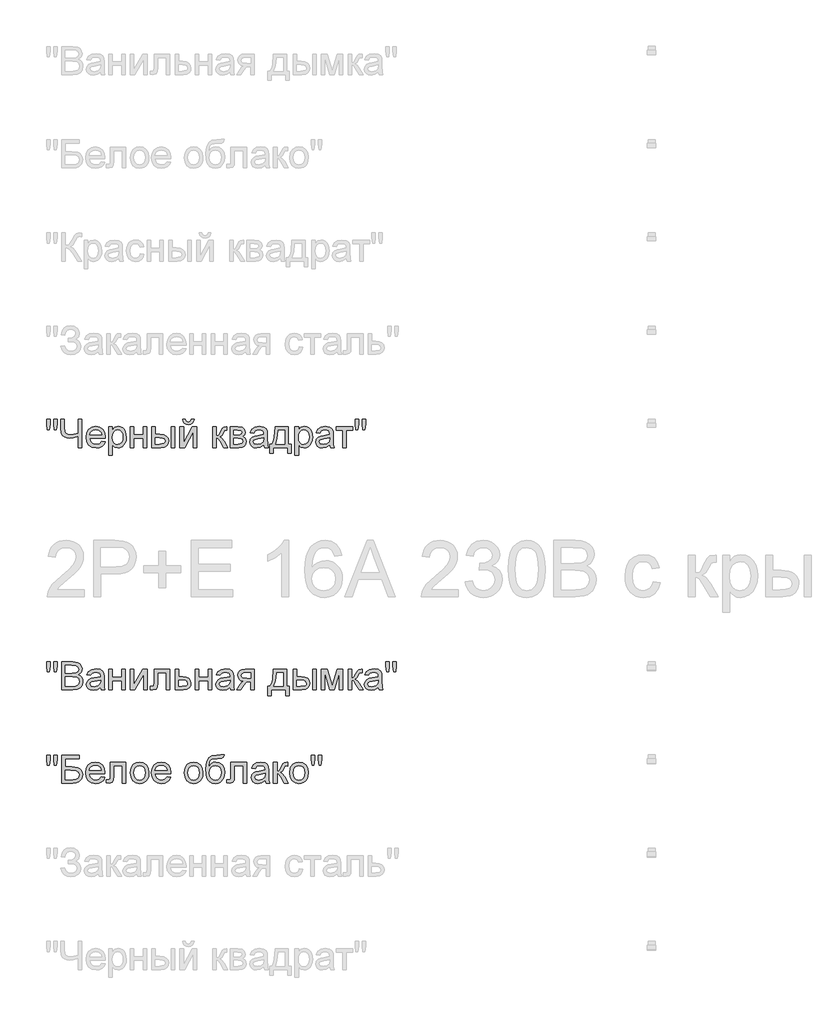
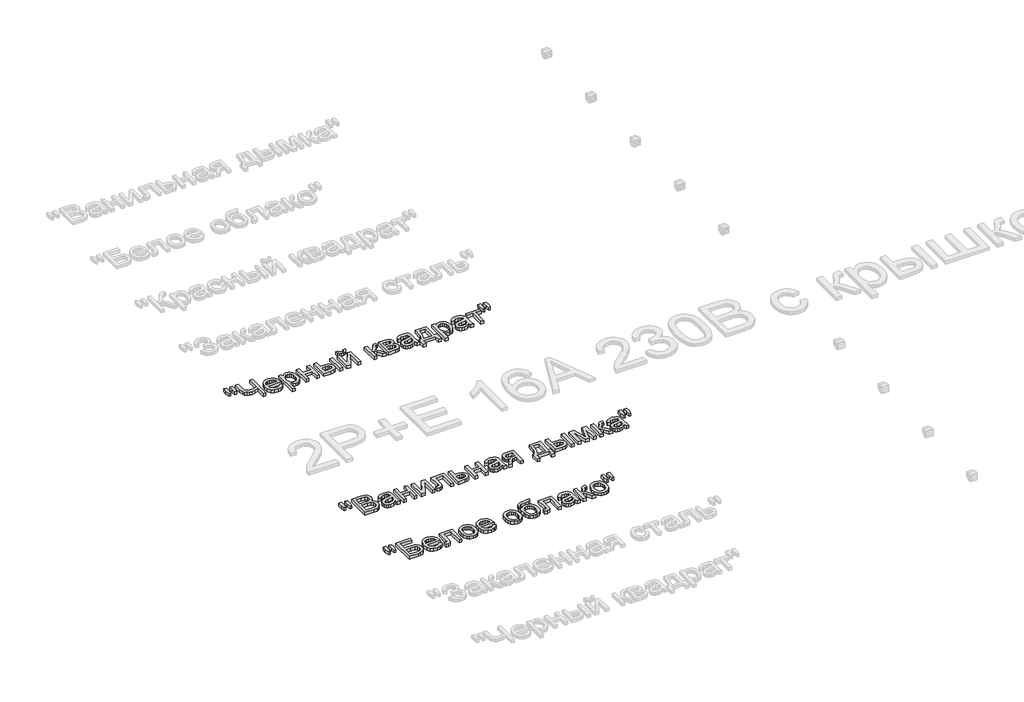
# One storey, part 47 of 168: 3 proxies.
"""IFC4 building model written with IfcOpenShell, lengths in millimetres."""

import ifcopenshell
import ifcopenshell.guid

model = None  # the IFC model being written
_history = None  # IfcOwnerHistory: only IFC2X3 demands one
_inside = {}  # id of a spatial element -> (the spatial element, [elements in it])
_under = {}  # id of a project, library or spatial element -> (it, [spatial elements below it])
_declared = {}  # id of a project -> (the project, [libraries it declares])
_typed = {}  # id of a type object -> (the type object, [elements of that type])
_made_of = {}  # id of a material, layer set ... -> (it, [elements and type objects made of it])


def new_model(schema):
    """Start an empty IFC model of exactly this schema.

    Asked for "IFC4X3", IfcOpenShell would pick the latest addendum, in which some entities
    have other attributes; the version numbers below select the first issue.
    IFC2X3 requires an IfcOwnerHistory on every rooted entity: one is made here for all.
    """
    global model, _history
    if schema == "IFC4X3":
        model = ifcopenshell.file(schema_version=(4, 3, 0, 0))
    else:
        model = ifcopenshell.file(schema=schema)
    _inside.clear()
    _under.clear()
    _declared.clear()
    _typed.clear()
    _made_of.clear()
    _history = None
    if model.schema == "IFC2X3":
        org = make("IfcOrganization", Name="unknown")
        user = make(
            "IfcPersonAndOrganization",
            ThePerson=make("IfcPerson", FamilyName="unknown"),
            TheOrganization=org,
        )
        app = make(
            "IfcApplication",
            ApplicationDeveloper=org,
            Version="unknown",
            ApplicationFullName="unknown",
            ApplicationIdentifier="unknown",
        )
        _history = make(
            "IfcOwnerHistory",
            OwningUser=user,
            OwningApplication=app,
            ChangeAction="ADDED",
            CreationDate=0,
        )
    return model


def make(cls, **values):
    """One entity of the class cls with the attributes given. An attribute that is None is left unset."""
    return model.create_entity(
        cls, **{name: value for name, value in values.items() if value is not None}
    )


def rooted(cls, **values):
    """An entity with a GlobalId (a new one), such as an element, a storey or a relation."""
    return make(cls, GlobalId=ifcopenshell.guid.new(), OwnerHistory=_history, **values)


def si_unit(unit_type, name, prefix=None):
    """IfcSIUnit, for example si_unit("LENGTHUNIT", "METRE", prefix="MILLI")."""
    return make("IfcSIUnit", UnitType=unit_type, Prefix=prefix, Name=name)


def assignment(units):
    """IfcUnitAssignment: the units of a project."""
    return None if units is None else make("IfcUnitAssignment", Units=units)


def point(xyz):
    """IfcCartesianPoint."""
    return None if xyz is None else make("IfcCartesianPoint", Coordinates=xyz)


def direction(xyz):
    """IfcDirection."""
    return None if xyz is None else make("IfcDirection", DirectionRatios=xyz)


def frame(location, z_axis=None, x_axis=None):
    """IfcAxis2Placement3D, a coordinate frame: its origin and axes. An axis left out is left unset."""
    return make(
        "IfcAxis2Placement3D",
        Location=point(location),
        Axis=direction(z_axis),
        RefDirection=direction(x_axis),
    )


def origin():
    """The frame at (0, 0, 0) with its axes left unset."""
    return frame((0.0, 0.0, 0.0))


def origin_with_axes():
    """The frame at (0, 0, 0) with the z axis (0, 0, 1) and the x axis (1, 0, 0) written out."""
    return frame((0.0, 0.0, 0.0), z_axis=(0.0, 0.0, 1.0), x_axis=(1.0, 0.0, 0.0))


def place(relative_to, where):
    """IfcLocalPlacement: puts the frame where relative to a parent placement (None: the world)."""
    return make(
        "IfcLocalPlacement", PlacementRelTo=relative_to, RelativePlacement=where
    )


def context(
    kind, dimensions, precision=None, world=None, true_north=None, identifier=None
):
    """IfcGeometricRepresentationContext, for example the 3D "Model" context."""
    return make(
        "IfcGeometricRepresentationContext",
        ContextIdentifier=identifier,
        ContextType=kind,
        CoordinateSpaceDimension=dimensions,
        Precision=precision,
        WorldCoordinateSystem=world,
        TrueNorth=true_north,
    )


def project(units=None, contexts=None):
    """IfcProject with its units and contexts."""
    return rooted(
        "IfcProject",
        Name="project",
        RepresentationContexts=contexts,
        UnitsInContext=assignment(units),
    )


def spatial(cls, under=None, at=None, **own):
    """A site, building, storey or space (cls), placed at a placement, below another one or the project."""
    s = rooted(cls, ObjectPlacement=at, **own)
    if under is not None:
        _under.setdefault(under.id(), (under, []))[1].append(s)
    return s


def polyline(points):
    """IfcPolyline through the points."""
    return make("IfcPolyline", Points=[point(p) for p in points])


def outline(outer, holes=None, kind="AREA"):
    """IfcArbitraryClosedProfileDef: a profile drawn as a closed curve; with holes, ...WithVoids."""
    if holes is None:
        return make("IfcArbitraryClosedProfileDef", ProfileType=kind, OuterCurve=outer)
    return make(
        "IfcArbitraryProfileDefWithVoids",
        ProfileType=kind,
        OuterCurve=outer,
        InnerCurves=holes,
    )


def extrude(swept, where, along, depth):
    """IfcExtrudedAreaSolid: the profile swept, set in the frame where, extruded along a direction by depth."""
    return make(
        "IfcExtrudedAreaSolid",
        SweptArea=swept,
        Position=where,
        ExtrudedDirection=direction(along),
        Depth=depth,
    )


def shape(context_of_items, identifier, shape_type, items):
    """IfcShapeRepresentation: the items that make up one representation, for example the "Body"."""
    return make(
        "IfcShapeRepresentation",
        ContextOfItems=context_of_items,
        RepresentationIdentifier=identifier,
        RepresentationType=shape_type,
        Items=items,
    )


def made_of(thing, what):
    """Note that an element or type object is made of a material, layer set ...; save() writes the relation."""
    if what is not None:
        _made_of.setdefault(what.id(), (what, []))[1].append(thing)
    return thing


def element(
    cls,
    number,
    at=None,
    inside=None,
    cuts=None,
    type_object=None,
    material=None,
    context=None,
    identifier="Body",
    shape_type=None,
    held_by="IfcProductDefinitionShape",
    body=None,
    shapes=None,
    **own,
):
    """One element of the class cls, such as IfcWall. Its Tag is "e" and its number.

    at: its placement. inside: the storey or other place that contains it. cuts: it is an
    opening in that element (IfcRelVoidsElement). A single representation is given by context,
    identifier, shape_type and body (its items); several are given by shapes. held_by: the class
    of the entity that holds the representations. save() writes the other relations.
    """
    e = rooted(cls, Tag="e%d" % number, ObjectPlacement=at, **own)
    if body is not None:
        shapes = [shape(context, identifier, shape_type, body)]
    if shapes is not None:
        e.Representation = make(held_by, Representations=shapes)
    if inside is not None:
        _inside.setdefault(inside.id(), (inside, []))[1].append(e)
    if cuts is not None:
        rooted(
            "IfcRelVoidsElement", RelatingBuildingElement=cuts, RelatedOpeningElement=e
        )
    if type_object is not None:
        _typed.setdefault(type_object.id(), (type_object, []))[1].append(e)
    return made_of(e, material)


def aggregate(whole, parts):
    """IfcRelAggregates: a whole, such as a stair, and the parts it consists of."""
    return rooted("IfcRelAggregates", RelatingObject=whole, RelatedObjects=parts)


def save(model, path):
    """Write the relations noted so far, then the file.

    IfcRelAggregates (storeys below a building ...), IfcRelContainedInSpatialStructure (elements
    in a storey), IfcRelDefinesByType, IfcRelAssociatesMaterial and IfcRelDeclares: one each for
    every whole, place, type object, material and project.
    """
    for whole, parts in _under.values():
        aggregate(whole, parts)
    for where, things in _inside.values():
        rooted(
            "IfcRelContainedInSpatialStructure",
            RelatedElements=things,
            RelatingStructure=where,
        )
    for kind, things in _typed.values():
        rooted("IfcRelDefinesByType", RelatedObjects=things, RelatingType=kind)
    for what, things in _made_of.values():
        rooted("IfcRelAssociatesMaterial", RelatedObjects=things, RelatingMaterial=what)
    for by, libraries in _declared.values():
        rooted("IfcRelDeclares", RelatingContext=by, RelatedDefinitions=libraries)
    model.write(path)


model = new_model("IFC4")

# Units and contexts
model_context = context("Model", 3, world=origin())
ifc_project = project(units=[si_unit("LENGTHUNIT", "METRE", prefix="MILLI")], contexts=[model_context])

# Site, building, storey
site = spatial("IfcSite", under=ifc_project)
building = spatial("IfcBuilding", under=site)
storey = spatial("IfcBuildingStorey", under=building, Name="Этаж 01", Elevation=0.0)

# Proxies
placement = place(None, origin())
element("IfcBuildingElementProxy", 1, Name="150", ObjectType="150", at=placement, inside=storey, context=model_context, shape_type="SweptSolid", body=[
    extrude(outline(polyline([(41980.1485789, -34070.3300622), (41975.550054, -34041.2305964), (41975.550054, -34016.1778325), (41994.3856121, -34016.1778325), (41994.3856121, -34041.2305964), (41990.2653338, -34070.3300622), (41980.1485789, -34070.3300622)])), origin_with_axes(), (0.0, 0.0, 1.0), 20.0),
    extrude(outline(polyline([(42017.7093306, -34070.3300622), (42013.2211703, -34041.2305964), (42013.2211703, -34016.1778325), (42032.0567284, -34016.1778325), (42032.0567284, -34041.2305964), (42027.6421445, -34070.3300622), (42017.7093306, -34070.3300622)])), origin_with_axes(), (0.0, 0.0, 1.0), 20.0),
    extrude(outline(polyline([(42163.9056355, -34166.8622977), (42145.0700773, -34166.8622977), (42145.0700773, -34106.5296505), (42120.0908899, -34114.6966308), (42098.4226404, -34117.4189576), (42083.7395502, -34115.556555), (42070.886673, -34109.9693472), (42060.926268, -34101.5172583), (42054.9205944, -34091.0602126), (42050.8922866, -34061.0594359), (42050.8922866, -34016.1778325), (42069.7278447, -34016.1778325), (42069.7278447, -34058.5210502), (42071.990319, -34078.8879171), (42078.7777418, -34090.8394834), (42088.7381468, -34096.6474204), (42100.5195677, -34098.5833994), (42122.2521966, -34096.2473488), (42145.0700773, -34089.2391968), (42145.0700773, -34016.1778325), (42163.9056355, -34016.1778325), (42163.9056355, -34166.8622977)])), origin_with_axes(), (0.0, 0.0, 1.0), 20.0),
    extrude(outline(polyline([(42271.9893657, -34133.900071), (42290.4570418, -34136.2545157), (42283.8029763, -34150.1696522), (42273.1849822, -34160.5715156), (42258.8421829, -34167.0554358), (42241.0137017, -34169.2167425), (42218.9131908, -34165.4873388), (42201.9078456, -34154.2991276), (42191.0645238, -34136.3786759), (42187.4500832, -34112.4525506), (42191.101312, -34087.7216835), (42202.0549984, -34069.2264162), (42218.8304174, -34057.6933157), (42239.9468439, -34053.8489488), (42260.4056814, -34057.6841186), (42276.7534375, -34069.189628), (42287.4725992, -34087.6481071), (42291.045653, -34112.342186), (42290.9352884, -34117.4189576), (42206.2856413, -34117.4189576), (42209.5459955, -34131.518035), (42217.1197661, -34141.8831103), (42228.0504599, -34148.2566658), (42241.3815837, -34150.3811843), (42259.8492598, -34146.444847), (42271.9893657, -34133.900071)]), holes=[polyline([(42206.2856413, -34098.5833994), (42272.2100949, -34098.5833994), (42269.6625121, -34088.6321915), (42264.668514, -34081.5136749), (42253.6872364, -34074.8917989), (42239.8732675, -34072.684507), (42227.1767401, -34074.445742), (42216.6783077, -34079.7294472), (42209.3804486, -34087.9654053), (42206.2856413, -34098.5833994)])]), origin_with_axes(), (0.0, 0.0, 1.0), 20.0),
    extrude(outline(polyline([(42309.8812112, -34209.2423036), (42309.8812112, -34056.2033936), (42328.7167693, -34056.2033936), (42328.7167693, -34074.6710697), (42341.739792, -34059.054479), (42359.3245513, -34053.8489488), (42372.0624654, -34055.6699647), (42383.2000928, -34061.1330123), (42392.268384, -34069.9069979), (42398.7982894, -34081.6608277), (42404.0590019, -34110.6867171), (42402.5736784, -34126.7953499), (42398.1177077, -34141.2025286), (42390.8336442, -34153.1770875), (42380.8640422, -34161.9878613), (42369.2527667, -34167.4095222), (42357.043683, -34169.2167425), (42340.6545401, -34164.3790943), (42328.7167693, -34152.1470179), (42328.7167693, -34209.2423036), (42309.8812112, -34209.2423036)]), holes=[polyline([(42328.7167693, -34112.4157624), (42330.7539159, -34129.301546), (42336.8653555, -34141.1105581), (42345.8830629, -34148.0635278), (42356.6390128, -34150.3811843), (42367.5697066, -34147.9807543), (42376.8173402, -34140.7794643), (42383.1219179, -34128.5381909), (42385.2234438, -34111.0178109), (42383.1725017, -34094.2239978), (42377.0196753, -34082.2494388), (42368.0157635, -34075.0757399), (42357.411565, -34072.684507), (42346.7659797, -34075.2274913), (42337.4171785, -34082.8564441), (42330.8918716, -34095.3322423), (42328.7167693, -34112.4157624)])]), origin_with_axes(), (0.0, 0.0, 1.0), 20.0),
    extrude(outline(polyline([(42425.2490049, -34056.2033936), (42444.084563, -34056.2033936), (42444.084563, -34098.5833994), (42493.5279032, -34098.5833994), (42493.5279032, -34056.2033936), (42512.3634613, -34056.2033936), (42512.3634613, -34166.8622977), (42493.5279032, -34166.8622977), (42493.5279032, -34117.4189576), (42444.084563, -34117.4189576), (42444.084563, -34166.8622977), (42425.2490049, -34166.8622977), (42425.2490049, -34056.2033936)])), origin_with_axes(), (0.0, 0.0, 1.0), 20.0),
    extrude(outline(polyline([(42644.2123684, -34056.2033936), (42663.0479266, -34056.2033936), (42663.0479266, -34166.8622977), (42644.2123684, -34166.8622977), (42644.2123684, -34056.2033936)])), origin_with_axes(), (0.0, 0.0, 1.0), 20.0),
    extrude(outline(polyline([(42540.6167986, -34056.2033936), (42559.4523567, -34056.2033936), (42559.4523567, -34096.2289547), (42582.739287, -34096.2289547), (42602.8670307, -34098.587998), (42617.780047, -34105.6651278), (42627.0092866, -34116.8901272), (42630.0856998, -34131.692779), (42627.5059273, -34145.1710556), (42619.7666098, -34156.5432078), (42606.3619096, -34164.2825252), (42586.785989, -34166.8622977), (42540.6167986, -34166.8622977), (42540.6167986, -34056.2033936)]), holes=[polyline([(42559.4523567, -34148.0267396), (42578.8029497, -34148.0267396), (42603.7821371, -34144.0720081), (42609.3831405, -34139.0090322), (42611.2501416, -34131.7295672), (42605.7135176, -34120.1412843), (42596.8337659, -34116.3337057), (42581.267759, -34115.0645128), (42559.4523567, -34115.0645128), (42559.4523567, -34148.0267396)])]), origin_with_axes(), (0.0, 0.0, 1.0), 20.0),
    extrude(outline(polyline([(42691.3012638, -34056.2033936), (42710.1368219, -34056.2033936), (42710.1368219, -34140.5955233), (42756.4163769, -34056.2033936), (42780.770165, -34056.2033936), (42780.770165, -34166.8622977), (42761.9346069, -34166.8622977), (42761.9346069, -34082.9852028), (42715.9493575, -34166.8622977), (42691.3012638, -34166.8622977), (42691.3012638, -34056.2033936)])), origin_with_axes(), (0.0, 0.0, 1.0), 20.0),
    extrude(outline(polyline([(42752.5168278, -34016.1778325), (42766.6434964, -34016.1778325), (42763.6038714, -34028.2397634), (42757.5016288, -34037.1287121), (42748.6126801, -34042.6055553), (42737.2129368, -34044.4311697), (42724.8429047, -34042.6193509), (42715.2503817, -34037.1838944), (42708.6928851, -34028.3087413), (42705.4279324, -34016.1778325), (42719.554601, -34016.1778325), (42724.8521017, -34026.7912281), (42735.5206796, -34030.3045011), (42747.219327, -34026.9015927), (42752.5168278, -34016.1778325)])), origin_with_axes(), (0.0, 0.0, 1.0), 20.0),
    extrude(outline(polyline([(42867.8846215, -34056.2033936), (42886.7201796, -34056.2033936), (42886.7201796, -34103.292289), (42899.3385321, -34099.9077746), (42909.6760161, -34080.1892997), (42918.2660607, -34063.1747574), (42925.8444298, -34057.6381334), (42939.6216105, -34056.2033936), (42943.2268541, -34056.2033936), (42943.2268541, -34075.1493163), (42938.1500825, -34075.0389517), (42928.9530327, -34077.0255145), (42922.4783096, -34089.4231377), (42914.8815464, -34102.8324365), (42904.2313626, -34109.3991301), (42916.113951, -34116.7291788), (42927.7758103, -34132.1710256), (42947.9357436, -34166.8622977), (42926.5250115, -34166.8622977), (42906.7697484, -34132.9067896), (42896.8369345, -34118.5409977), (42886.7201796, -34115.0645128), (42886.7201796, -34166.8622977), (42867.8846215, -34166.8622977), (42867.8846215, -34056.2033936)])), origin_with_axes(), (0.0, 0.0, 1.0), 20.0),
    extrude(outline(polyline([(42959.7079675, -34056.2033936), (43001.2050565, -34056.2033936), (43023.9585579, -34058.7233853), (43036.7608514, -34067.9572233), (43042.1135344, -34084.0520606), (43038.8761728, -34097.1302655), (43029.1273, -34106.4560741), (43041.7824406, -34116.6647995), (43046.8224239, -34134.4151058), (43043.6310476, -34148.7717006), (43036.0434815, -34158.8792584), (43024.0321343, -34164.8665379), (43007.569415, -34166.8622977), (42959.7079675, -34166.8622977), (42959.7079675, -34056.2033936)]), holes=[polyline([(42978.5435256, -34098.5833994), (42997.1583546, -34098.5833994), (43012.5174279, -34097.6269062), (43019.9854324, -34093.8009335), (43023.2779762, -34086.884752), (43021.8340394, -34081.2653545), (43017.5022289, -34077.6509139), (42997.7469658, -34075.0389517), (42978.5435256, -34075.0389517), (42978.5435256, -34098.5833994)]), polyline([(42978.5435256, -34148.0267396), (43001.6465149, -34148.0267396), (43022.137542, -34144.6238311), (43026.377382, -34139.9839195), (43027.9868658, -34132.8700014), (43024.7678983, -34123.8017102), (43016.3801888, -34118.5226036), (42999.8071049, -34117.4189576), (42978.5435256, -34117.4189576), (42978.5435256, -34148.0267396)])]), origin_with_axes(), (0.0, 0.0, 1.0), 20.0),
    extrude(outline(polyline([(43141.0002147, -34152.7356291), (43122.7348736, -34165.5011344), (43102.5565462, -34169.2167425), (43086.8157953, -34166.9818594), (43075.2045198, -34160.27721), (43068.0446165, -34150.0960758), (43065.6579821, -34137.4317381), (43069.2632256, -34122.5325173), (43078.736187, -34111.7167867), (43091.9247565, -34105.5363691), (43108.2219289, -34102.7036778), (43140.8898501, -34096.2289547), (43141.0002147, -34092.0350999), (43139.7034307, -34083.6289963), (43135.8130786, -34078.1291605), (43127.1126694, -34074.0456704), (43114.9909576, -34072.684507), (43095.9346703, -34076.3081446), (43086.847985, -34089.1656204), (43068.0124268, -34086.8111756), (43076.161013, -34068.4170758), (43092.56855, -34057.6381334), (43117.4189788, -34053.8489488), (43140.2460566, -34057.196675), (43153.1403205, -34065.6027786), (43158.9160679, -34078.3866779), (43159.8357728, -34094.8677913), (43159.8357728, -34118.3018744), (43160.792266, -34151.0249778), (43164.5446624, -34166.8622977), (43145.7091042, -34166.8622977), (43141.0002147, -34152.7356291)]), holes=[polyline([(43141.0002147, -34115.0645128), (43110.6131619, -34120.8402601), (43094.40796, -34123.8936807), (43087.0687142, -34128.8600876), (43084.4935402, -34136.1073629), (43090.1037407, -34146.2976942), (43106.5664599, -34150.3811843), (43125.6227473, -34145.8746299), (43137.9100059, -34134.9669288), (43140.8898501, -34120.3988017), (43141.0002147, -34115.0645128)])]), origin_with_axes(), (0.0, 0.0, 1.0), 20.0),
    extrude(outline(polyline([(43202.2157787, -34056.2033936), (43272.8491218, -34056.2033936), (43272.8491218, -34148.0267396), (43286.9757904, -34148.0267396), (43286.9757904, -34197.4700797), (43268.1402322, -34197.4700797), (43268.1402322, -34166.8622977), (43190.4435548, -34166.8622977), (43190.4435548, -34197.4700797), (43171.6079967, -34197.4700797), (43171.6079967, -34148.0267396), (43183.3802205, -34148.0267396), (43191.9380754, -34132.5619002), (43197.9299534, -34112.1030628), (43202.2157787, -34056.2033936)]), holes=[polyline([(43218.6968921, -34075.0389517), (43214.2823081, -34117.9523865), (43204.5702235, -34148.0267396), (43254.0135636, -34148.0267396), (43254.0135636, -34075.0389517), (43218.6968921, -34075.0389517)])]), origin_with_axes(), (0.0, 0.0, 1.0), 20.0),
    extrude(outline(polyline([(43308.1657933, -34209.2423036), (43308.1657933, -34056.2033936), (43327.0013514, -34056.2033936), (43327.0013514, -34074.6710697), (43340.0243741, -34059.054479), (43357.6091334, -34053.8489488), (43370.3470475, -34055.6699647), (43381.4846749, -34061.1330123), (43390.5529661, -34069.9069979), (43397.0828715, -34081.6608277), (43402.3435841, -34110.6867171), (43400.8582605, -34126.7953499), (43396.4022898, -34141.2025286), (43389.1182263, -34153.1770875), (43379.1486243, -34161.9878613), (43367.5373488, -34167.4095222), (43355.3282651, -34169.2167425), (43338.9391222, -34164.3790943), (43327.0013514, -34152.1470179), (43327.0013514, -34209.2423036), (43308.1657933, -34209.2423036)]), holes=[polyline([(43327.0013514, -34112.4157624), (43329.038498, -34129.301546), (43335.1499376, -34141.1105581), (43344.167645, -34148.0635278), (43354.9235949, -34150.3811843), (43365.8542887, -34147.9807543), (43375.1019223, -34140.7794643), (43381.4065, -34128.5381909), (43383.5080259, -34111.0178109), (43381.4570838, -34094.2239978), (43375.3042574, -34082.2494388), (43366.3003456, -34075.0757399), (43355.6961471, -34072.684507), (43345.0505618, -34075.2274913), (43335.7017606, -34082.8564441), (43329.1764537, -34095.3322423), (43327.0013514, -34112.4157624)])]), origin_with_axes(), (0.0, 0.0, 1.0), 20.0),
    extrude(outline(polyline([(43494.1669301, -34152.7356291), (43475.901589, -34165.5011344), (43455.7232616, -34169.2167425), (43439.9825107, -34166.9818594), (43428.3712352, -34160.27721), (43421.2113319, -34150.0960758), (43418.8246974, -34137.4317381), (43422.429941, -34122.5325173), (43431.9029024, -34111.7167867), (43445.0914719, -34105.5363691), (43461.3886443, -34102.7036778), (43494.0565655, -34096.2289547), (43494.1669301, -34092.0350999), (43492.870146, -34083.6289963), (43488.9797939, -34078.1291605), (43480.2793847, -34074.0456704), (43468.157673, -34072.684507), (43449.1013856, -34076.3081446), (43440.0147004, -34089.1656204), (43421.1791422, -34086.8111756), (43429.3277284, -34068.4170758), (43445.7352654, -34057.6381334), (43470.5856942, -34053.8489488), (43493.412772, -34057.196675), (43506.3070359, -34065.6027786), (43512.0827832, -34078.3866779), (43513.0024882, -34094.8677913), (43513.0024882, -34118.3018744), (43513.9589814, -34151.0249778), (43517.7113777, -34166.8622977), (43498.8758196, -34166.8622977), (43494.1669301, -34152.7356291)]), holes=[polyline([(43494.1669301, -34115.0645128), (43463.7798773, -34120.8402601), (43447.5746754, -34123.8936807), (43440.2354296, -34128.8600876), (43437.6602556, -34136.1073629), (43443.270456, -34146.2976942), (43459.7331753, -34150.3811843), (43478.7894627, -34145.8746299), (43491.0767213, -34134.9669288), (43494.0565655, -34120.3988017), (43494.1669301, -34115.0645128)])]), origin_with_axes(), (0.0, 0.0, 1.0), 20.0),
    extrude(outline(polyline([(43529.4836016, -34056.2033936), (43618.9525028, -34056.2033936), (43618.9525028, -34075.0389517), (43583.6358313, -34075.0389517), (43583.6358313, -34166.8622977), (43564.8002731, -34166.8622977), (43564.8002731, -34075.0389517), (43529.4836016, -34075.0389517), (43529.4836016, -34056.2033936)])), origin_with_axes(), (0.0, 0.0, 1.0), 20.0),
    extrude(outline(polyline([(43635.3232516, -34070.3300622), (43630.7247267, -34041.2305964), (43630.7247267, -34016.1778325), (43649.5602848, -34016.1778325), (43649.5602848, -34041.2305964), (43645.4400065, -34070.3300622), (43635.3232516, -34070.3300622)])), origin_with_axes(), (0.0, 0.0, 1.0), 20.0),
    extrude(outline(polyline([(43672.8840033, -34070.3300622), (43668.395843, -34041.2305964), (43668.395843, -34016.1778325), (43687.2314011, -34016.1778325), (43687.2314011, -34041.2305964), (43682.8168172, -34070.3300622), (43672.8840033, -34070.3300622)])), origin_with_axes(), (0.0, 0.0, 1.0), 20.0),
])
element("IfcBuildingElementProxy", 2, Name="150", ObjectType="150", at=placement, inside=storey, context=model_context, shape_type="SweptSolid", body=[
    extrude(outline(polyline([(41980.1485789, -35370.3300622), (41975.550054, -35341.2305964), (41975.550054, -35316.1778325), (41994.3856121, -35316.1778325), (41994.3856121, -35341.2305964), (41990.2653338, -35370.3300622), (41980.1485789, -35370.3300622)])), origin_with_axes(), (0.0, 0.0, 1.0), 20.0),
    extrude(outline(polyline([(42017.7093306, -35370.3300622), (42013.2211703, -35341.2305964), (42013.2211703, -35316.1778325), (42032.0567284, -35316.1778325), (42032.0567284, -35341.2305964), (42027.6421445, -35370.3300622), (42017.7093306, -35370.3300622)])), origin_with_axes(), (0.0, 0.0, 1.0), 20.0),
    extrude(outline(polyline([(42057.9556209, -35466.8622977), (42057.9556209, -35316.1778325), (42115.4555767, -35316.1778325), (42143.6169435, -35320.6108106), (42153.0807078, -35326.2348066), (42160.2452096, -35334.2408385), (42166.2600803, -35353.517855), (42161.2017028, -35371.1210085), (42145.9162059, -35384.4567308), (42156.5893823, -35390.030143), (42164.4758526, -35398.509823), (42169.3456905, -35409.3347507), (42170.9689698, -35421.9439061), (42166.5359918, -35442.19581), (42155.5547142, -35456.6167842), (42139.1655713, -35464.2687297), (42115.0141183, -35466.8622977), (42057.9556209, -35466.8622977)]), holes=[polyline([(42076.791179, -35377.3933965), (42111.1881456, -35377.3933965), (42131.2745025, -35375.7747157), (42143.3594261, -35368.8033519), (42147.4245221, -35356.5344874), (42143.6353376, -35344.2472287), (42132.7828187, -35336.9815593), (42108.5761834, -35335.0133907), (42076.791179, -35335.0133907), (42076.791179, -35377.3933965)]), polyline([(42076.791179, -35448.0267396), (42115.4187885, -35448.0267396), (42129.3983043, -35447.2909756), (42141.2257105, -35443.1890913), (42149.061597, -35434.819776), (42152.1334117, -35422.1278471), (42148.5281681, -35407.4861437), (42136.8479148, -35398.7489463), (42113.5793786, -35396.2289547), (42076.791179, -35396.2289547), (42076.791179, -35448.0267396)])]), origin_with_axes(), (0.0, 0.0, 1.0), 20.0),
    extrude(outline(polyline([(42265.1467606, -35452.7356291), (42246.8814195, -35465.5011344), (42226.7030921, -35469.2167425), (42210.9623412, -35466.9818594), (42199.3510657, -35460.27721), (42192.1911624, -35450.0960758), (42189.804528, -35437.4317381), (42193.4097715, -35422.5325173), (42202.8827329, -35411.7167867), (42216.0713024, -35405.5363691), (42232.3684748, -35402.7036778), (42265.036396, -35396.2289547), (42265.1467606, -35392.0350999), (42263.8499765, -35383.6289963), (42259.9596244, -35378.1291605), (42251.2592153, -35374.0456704), (42239.1375035, -35372.684507), (42220.0812162, -35376.3081446), (42210.9945309, -35389.1656204), (42192.1589727, -35386.8111756), (42200.3075589, -35368.4170758), (42216.7150959, -35357.6381334), (42241.5655247, -35353.8489488), (42264.3926025, -35357.196675), (42277.2868664, -35365.6027786), (42283.0626137, -35378.3866779), (42283.9823187, -35394.8677913), (42283.9823187, -35418.3018744), (42284.9388119, -35451.0249778), (42288.6912083, -35466.8622977), (42269.8556501, -35466.8622977), (42265.1467606, -35452.7356291)]), holes=[polyline([(42265.1467606, -35415.0645128), (42234.7597078, -35420.8402601), (42218.5545059, -35423.8936807), (42211.2152601, -35428.8600876), (42208.6400861, -35436.1073629), (42214.2502865, -35446.2976942), (42230.7130058, -35450.3811843), (42249.7692932, -35445.8746299), (42262.0565518, -35434.9669288), (42265.036396, -35420.3988017), (42265.1467606, -35415.0645128)])]), origin_with_axes(), (0.0, 0.0, 1.0), 20.0),
    extrude(outline(polyline([(42309.8812112, -35356.2033936), (42328.7167693, -35356.2033936), (42328.7167693, -35398.5833994), (42378.1601095, -35398.5833994), (42378.1601095, -35356.2033936), (42396.9956676, -35356.2033936), (42396.9956676, -35466.8622977), (42378.1601095, -35466.8622977), (42378.1601095, -35417.4189576), (42328.7167693, -35417.4189576), (42328.7167693, -35466.8622977), (42309.8812112, -35466.8622977), (42309.8812112, -35356.2033936)])), origin_with_axes(), (0.0, 0.0, 1.0), 20.0),
    extrude(outline(polyline([(42425.2490049, -35356.2033936), (42444.084563, -35356.2033936), (42444.084563, -35440.5955233), (42490.364118, -35356.2033936), (42514.7179061, -35356.2033936), (42514.7179061, -35466.8622977), (42495.8823479, -35466.8622977), (42495.8823479, -35382.9852028), (42449.8970985, -35466.8622977), (42425.2490049, -35466.8622977), (42425.2490049, -35356.2033936)])), origin_with_axes(), (0.0, 0.0, 1.0), 20.0),
    extrude(outline(polyline([(42552.3890224, -35356.2033936), (42637.1490341, -35356.2033936), (42637.1490341, -35466.7519331), (42618.3134759, -35466.7519331), (42618.3134759, -35375.0389517), (42571.2245806, -35375.0389517), (42571.2245806, -35427.830018), (42569.9553877, -35452.1838061), (42562.9840239, -35462.4661079), (42546.5029105, -35466.8622977), (42531.1990195, -35465.9058045), (42531.1990195, -35448.0267396), (42539.6235172, -35448.0267396), (42548.1399854, -35446.8679113), (42551.5428938, -35443.1890913), (42552.3890224, -35426.7631603), (42552.3890224, -35356.2033936)])), origin_with_axes(), (0.0, 0.0, 1.0), 20.0),
    extrude(outline(polyline([(42665.4023713, -35356.2033936), (42684.2379295, -35356.2033936), (42684.2379295, -35396.2289547), (42705.9429672, -35396.2289547), (42724.7601312, -35398.587998), (42738.6844648, -35405.6651278), (42747.2929034, -35416.8901272), (42750.162383, -35431.692779), (42747.7205663, -35445.1710556), (42740.395116, -35456.5432078), (42727.6985887, -35464.2825252), (42709.1435405, -35466.8622977), (42665.4023713, -35466.8622977), (42665.4023713, -35356.2033936)]), holes=[polyline([(42684.2379295, -35448.0267396), (42701.8226888, -35448.0267396), (42724.539402, -35444.0720081), (42729.6299692, -35439.0090322), (42731.3268249, -35431.7295672), (42726.3052356, -35420.1412843), (42718.2348244, -35416.3337057), (42704.066769, -35415.0645128), (42684.2379295, -35415.0645128), (42684.2379295, -35448.0267396)])]), origin_with_axes(), (0.0, 0.0, 1.0), 20.0),
    extrude(outline(polyline([(42773.7068307, -35356.2033936), (42792.5423889, -35356.2033936), (42792.5423889, -35398.5833994), (42841.985729, -35398.5833994), (42841.985729, -35356.2033936), (42860.8212872, -35356.2033936), (42860.8212872, -35466.8622977), (42841.985729, -35466.8622977), (42841.985729, -35417.4189576), (42792.5423889, -35417.4189576), (42792.5423889, -35466.8622977), (42773.7068307, -35466.8622977), (42773.7068307, -35356.2033936)])), origin_with_axes(), (0.0, 0.0, 1.0), 20.0),
    extrude(outline(polyline([(42959.7079675, -35452.7356291), (42941.4426264, -35465.5011344), (42921.264299, -35469.2167425), (42905.5235481, -35466.9818594), (42893.9122726, -35460.27721), (42886.7523693, -35450.0960758), (42884.3657349, -35437.4317381), (42887.9709784, -35422.5325173), (42897.4439398, -35411.7167867), (42910.6325093, -35405.5363691), (42926.9296817, -35402.7036778), (42959.5976029, -35396.2289547), (42959.7079675, -35392.0350999), (42958.4111834, -35383.6289963), (42954.5208313, -35378.1291605), (42945.8204221, -35374.0456704), (42933.6987104, -35372.684507), (42914.6424231, -35376.3081446), (42905.5557378, -35389.1656204), (42886.7201796, -35386.8111756), (42894.8687658, -35368.4170758), (42911.2763028, -35357.6381334), (42936.1267316, -35353.8489488), (42958.9538094, -35357.196675), (42971.8480733, -35365.6027786), (42977.6238206, -35378.3866779), (42978.5435256, -35394.8677913), (42978.5435256, -35418.3018744), (42979.5000188, -35451.0249778), (42983.2524152, -35466.8622977), (42964.416857, -35466.8622977), (42959.7079675, -35452.7356291)]), holes=[polyline([(42959.7079675, -35415.0645128), (42929.3209147, -35420.8402601), (42913.1157128, -35423.8936807), (42905.776467, -35428.8600876), (42903.201293, -35436.1073629), (42908.8114934, -35446.2976942), (42925.2742127, -35450.3811843), (42944.3305001, -35445.8746299), (42956.6177587, -35434.9669288), (42959.5976029, -35420.3988017), (42959.7079675, -35415.0645128)])]), origin_with_axes(), (0.0, 0.0, 1.0), 20.0),
    extrude(outline(polyline([(43089.2024298, -35356.2033936), (43089.2024298, -35466.8622977), (43070.3668716, -35466.8622977), (43070.3668716, -35424.4822919), (43060.1029639, -35424.4822919), (43046.1234481, -35426.8735249), (43032.9900609, -35442.949968), (43017.9804755, -35466.8622977), (42996.2018614, -35466.8622977), (43015.1109959, -35436.6223977), (43023.4619172, -35425.7698789), (43031.1506509, -35420.9506247), (43018.2747811, -35417.0050903), (43009.224884, -35409.5094947), (43003.872201, -35399.5398926), (43002.0879733, -35388.172339), (43004.5251915, -35375.278075), (43011.8368462, -35365.0693497), (43023.7654199, -35358.4198826), (43040.0533952, -35356.2033936), (43089.2024298, -35356.2033936)]), holes=[polyline([(43070.3668716, -35375.0389517), (43045.5348369, -35375.0389517), (43032.7095509, -35376.1288021), (43025.4300859, -35379.3983534), (43020.9235315, -35389.6070787), (43022.583599, -35396.7853762), (43027.5638015, -35401.7655787), (43051.0898551, -35405.6467337), (43070.3668716, -35405.6467337), (43070.3668716, -35375.0389517)])]), origin_with_axes(), (0.0, 0.0, 1.0), 20.0),
    extrude(outline(polyline([(43192.7979996, -35356.2033936), (43263.4313427, -35356.2033936), (43263.4313427, -35448.0267396), (43277.5580113, -35448.0267396), (43277.5580113, -35497.4700797), (43258.7224531, -35497.4700797), (43258.7224531, -35466.8622977), (43181.0257758, -35466.8622977), (43181.0257758, -35497.4700797), (43162.1902176, -35497.4700797), (43162.1902176, -35448.0267396), (43173.9624415, -35448.0267396), (43182.5202964, -35432.5619002), (43188.5121744, -35412.1030628), (43192.7979996, -35356.2033936)]), holes=[polyline([(43209.279113, -35375.0389517), (43204.864529, -35417.9523865), (43195.1524444, -35448.0267396), (43244.5957845, -35448.0267396), (43244.5957845, -35375.0389517), (43209.279113, -35375.0389517)])]), origin_with_axes(), (0.0, 0.0, 1.0), 20.0),
    extrude(outline(polyline([(43402.3435841, -35356.2033936), (43421.1791422, -35356.2033936), (43421.1791422, -35466.8622977), (43402.3435841, -35466.8622977), (43402.3435841, -35356.2033936)])), origin_with_axes(), (0.0, 0.0, 1.0), 20.0),
    extrude(outline(polyline([(43298.7480142, -35356.2033936), (43317.5835724, -35356.2033936), (43317.5835724, -35396.2289547), (43340.8705027, -35396.2289547), (43360.9982463, -35398.587998), (43375.9112627, -35405.6651278), (43385.1405023, -35416.8901272), (43388.2169154, -35431.692779), (43385.637143, -35445.1710556), (43377.8978255, -35456.5432078), (43364.4931253, -35464.2825252), (43344.9172046, -35466.8622977), (43298.7480142, -35466.8622977), (43298.7480142, -35356.2033936)]), holes=[polyline([(43317.5835724, -35448.0267396), (43336.9341653, -35448.0267396), (43361.9133528, -35444.0720081), (43367.5143562, -35439.0090322), (43369.3813573, -35431.7295672), (43363.8447333, -35420.1412843), (43354.9649816, -35416.3337057), (43339.3989747, -35415.0645128), (43317.5835724, -35415.0645128), (43317.5835724, -35448.0267396)])]), origin_with_axes(), (0.0, 0.0, 1.0), 20.0),
    extrude(outline(polyline([(43449.4324794, -35356.2033936), (43481.8428832, -35356.2033936), (43506.8220707, -35444.789378), (43533.7510327, -35356.2033936), (43564.8002731, -35356.2033936), (43564.8002731, -35466.8622977), (43545.964715, -35466.8622977), (43545.964715, -35377.7612785), (43518.8886001, -35466.8622977), (43494.1669301, -35466.8622977), (43468.2680376, -35373.4938474), (43468.2680376, -35466.8622977), (43449.4324794, -35466.8622977), (43449.4324794, -35356.2033936)])), origin_with_axes(), (0.0, 0.0, 1.0), 20.0),
    extrude(outline(polyline([(43593.0536104, -35356.2033936), (43611.8891685, -35356.2033936), (43611.8891685, -35403.292289), (43624.5075209, -35399.9077746), (43634.845005, -35380.1892997), (43643.4350496, -35363.1747574), (43651.0134187, -35357.6381334), (43664.7905994, -35356.2033936), (43668.395843, -35356.2033936), (43668.395843, -35375.1493163), (43663.3190714, -35375.0389517), (43654.1220216, -35377.0255145), (43647.6472984, -35389.4231377), (43640.0505352, -35402.8324365), (43629.4003515, -35409.3991301), (43641.2829399, -35416.7291788), (43652.9447992, -35432.1710256), (43673.1047325, -35466.8622977), (43651.6940004, -35466.8622977), (43631.9387372, -35432.9067896), (43622.0059234, -35418.5409977), (43611.8891685, -35415.0645128), (43611.8891685, -35466.8622977), (43593.0536104, -35466.8622977), (43593.0536104, -35356.2033936)])), origin_with_axes(), (0.0, 0.0, 1.0), 20.0),
    extrude(outline(polyline([(43755.5102994, -35452.7356291), (43737.2449584, -35465.5011344), (43717.0666309, -35469.2167425), (43701.3258801, -35466.9818594), (43689.7146046, -35460.27721), (43682.5547013, -35450.0960758), (43680.1680668, -35437.4317381), (43683.7733104, -35422.5325173), (43693.2462717, -35411.7167867), (43706.4348413, -35405.5363691), (43722.7320137, -35402.7036778), (43755.3999348, -35396.2289547), (43755.5102994, -35392.0350999), (43754.2135154, -35383.6289963), (43750.3231633, -35378.1291605), (43741.6227541, -35374.0456704), (43729.5010424, -35372.684507), (43710.444755, -35376.3081446), (43701.3580697, -35389.1656204), (43682.5225116, -35386.8111756), (43690.6710978, -35368.4170758), (43707.0786348, -35357.6381334), (43731.9290635, -35353.8489488), (43754.7561413, -35357.196675), (43767.6504053, -35365.6027786), (43773.4261526, -35378.3866779), (43774.3458576, -35394.8677913), (43774.3458576, -35418.3018744), (43775.3023508, -35451.0249778), (43779.0547471, -35466.8622977), (43760.219189, -35466.8622977), (43755.5102994, -35452.7356291)]), holes=[polyline([(43755.5102994, -35415.0645128), (43725.1232466, -35420.8402601), (43708.9180447, -35423.8936807), (43701.5787989, -35428.8600876), (43699.003625, -35436.1073629), (43704.6138254, -35446.2976942), (43721.0765447, -35450.3811843), (43740.132832, -35445.8746299), (43752.4200907, -35434.9669288), (43755.3999348, -35420.3988017), (43755.5102994, -35415.0645128)])]), origin_with_axes(), (0.0, 0.0, 1.0), 20.0),
    extrude(outline(polyline([(43800.1343854, -35370.3300622), (43795.5358605, -35341.2305964), (43795.5358605, -35316.1778325), (43814.3714187, -35316.1778325), (43814.3714187, -35341.2305964), (43810.2511403, -35370.3300622), (43800.1343854, -35370.3300622)])), origin_with_axes(), (0.0, 0.0, 1.0), 20.0),
    extrude(outline(polyline([(43837.6951372, -35370.3300622), (43833.2069768, -35341.2305964), (43833.2069768, -35316.1778325), (43852.042535, -35316.1778325), (43852.042535, -35341.2305964), (43847.627951, -35370.3300622), (43837.6951372, -35370.3300622)])), origin_with_axes(), (0.0, 0.0, 1.0), 20.0),
])
element("IfcBuildingElementProxy", 3, Name="150", ObjectType="150", at=placement, inside=storey, context=model_context, shape_type="SweptSolid", body=[
    extrude(outline(polyline([(41980.1485789, -35870.3300622), (41975.550054, -35841.2305964), (41975.550054, -35816.1778325), (41994.3856121, -35816.1778325), (41994.3856121, -35841.2305964), (41990.2653338, -35870.3300622), (41980.1485789, -35870.3300622)])), origin_with_axes(), (0.0, 0.0, 1.0), 20.0),
    extrude(outline(polyline([(42017.7093306, -35870.3300622), (42013.2211703, -35841.2305964), (42013.2211703, -35816.1778325), (42032.0567284, -35816.1778325), (42032.0567284, -35841.2305964), (42027.6421445, -35870.3300622), (42017.7093306, -35870.3300622)])), origin_with_axes(), (0.0, 0.0, 1.0), 20.0),
    extrude(outline(polyline([(42057.9556209, -35816.1778325), (42152.1334117, -35816.1778325), (42152.1334117, -35835.0133907), (42076.791179, -35835.0133907), (42076.791179, -35879.7478413), (42112.0710624, -35879.7478413), (42143.157091, -35883.573814), (42153.5589544, -35889.101241), (42161.6615553, -35898.0315764), (42166.8762826, -35909.5278888), (42168.614525, -35922.7532465), (42163.6665122, -35944.2191609), (42148.8960501, -35960.5347274), (42135.6247071, -35965.2804052), (42115.4555767, -35966.8622977), (42057.9556209, -35966.8622977), (42057.9556209, -35816.1778325)]), holes=[polyline([(42076.791179, -35948.0267396), (42117.1478339, -35948.0267396), (42131.4124583, -35946.4724382), (42141.6119866, -35941.8095339), (42147.7372218, -35934.0380267), (42149.7789669, -35923.1579167), (42145.1068655, -35908.4058487), (42132.102237, -35900.533174), (42103.7201411, -35898.5833994), (42076.791179, -35898.5833994), (42076.791179, -35948.0267396)])]), origin_with_axes(), (0.0, 0.0, 1.0), 20.0),
    extrude(outline(polyline([(42269.6349209, -35933.900071), (42288.1025971, -35936.2545157), (42281.4485315, -35950.1696522), (42270.8305374, -35960.5715156), (42256.4877381, -35967.0554358), (42238.6592569, -35969.2167425), (42216.5587461, -35965.4873388), (42199.5534008, -35954.2991276), (42188.710079, -35936.3786759), (42185.0956384, -35912.4525506), (42188.7468672, -35887.7216835), (42199.7005536, -35869.2264162), (42216.4759726, -35857.6933157), (42237.5923991, -35853.8489488), (42258.0512366, -35857.6841186), (42274.3989927, -35869.189628), (42285.1181544, -35887.6481071), (42288.6912083, -35912.342186), (42288.5808437, -35917.4189576), (42203.9311966, -35917.4189576), (42207.1915508, -35931.518035), (42214.7653213, -35941.8831103), (42225.6960151, -35948.2566658), (42239.0271389, -35950.3811843), (42257.4948151, -35946.444847), (42269.6349209, -35933.900071)]), holes=[polyline([(42203.9311966, -35898.5833994), (42269.8556501, -35898.5833994), (42267.3080673, -35888.6321915), (42262.3140692, -35881.5136749), (42251.3327917, -35874.8917989), (42237.5188227, -35872.684507), (42224.8222954, -35874.445742), (42214.3238629, -35879.7294472), (42207.0260039, -35887.9654053), (42203.9311966, -35898.5833994)])]), origin_with_axes(), (0.0, 0.0, 1.0), 20.0),
    extrude(outline(polyline([(42316.9445455, -35856.2033936), (42401.7045572, -35856.2033936), (42401.7045572, -35966.7519331), (42382.868999, -35966.7519331), (42382.868999, -35875.0389517), (42335.7801036, -35875.0389517), (42335.7801036, -35927.830018), (42334.5109108, -35952.1838061), (42327.539547, -35962.4661079), (42311.0584336, -35966.8622977), (42295.7545426, -35965.9058045), (42295.7545426, -35948.0267396), (42304.1790403, -35948.0267396), (42312.6955084, -35946.8679113), (42316.0984169, -35943.1890913), (42316.9445455, -35926.7631603), (42316.9445455, -35856.2033936)])), origin_with_axes(), (0.0, 0.0, 1.0), 20.0),
    extrude(outline(polyline([(42425.2490049, -35911.5328457), (42429.323298, -35884.852204), (42441.5461773, -35866.0994193), (42456.6477332, -35856.9115664), (42474.7291332, -35853.8489488), (42494.516586, -35857.5783525), (42510.3217163, -35868.7665637), (42520.6821929, -35886.5306656), (42524.1356852, -35909.9877413), (42522.6089749, -35929.0164375), (42518.0288441, -35943.501791), (42510.5286499, -35954.3497114), (42500.2417496, -35962.4661079), (42488.0234688, -35967.5290839), (42474.7291332, -35969.2167425), (42454.7025571, -35965.5011344), (42438.915821, -35954.3543099), (42428.6657089, -35936.2177275), (42425.2490049, -35911.5328457)]), holes=[polyline([(42444.084563, -35911.4960575), (42446.2642638, -35928.5427894), (42452.8033663, -35940.6874938), (42462.6442097, -35947.9577617), (42474.7291332, -35950.3811843), (42486.7588745, -35947.9439661), (42496.5813237, -35940.6323115), (42503.1204262, -35928.3266587), (42505.300127, -35910.9074463), (42503.1066306, -35894.357355), (42496.5261414, -35882.3781975), (42486.6898966, -35875.1079296), (42474.7291332, -35872.684507), (42462.6442097, -35875.0987326), (42452.8033663, -35882.3414093), (42446.2642638, -35894.4585226), (42444.084563, -35911.4960575)])]), origin_with_axes(), (0.0, 0.0, 1.0), 20.0),
    extrude(outline(polyline([(42622.8016363, -35933.900071), (42641.2693124, -35936.2545157), (42634.6152469, -35950.1696522), (42623.9972528, -35960.5715156), (42609.6544535, -35967.0554358), (42591.8259723, -35969.2167425), (42569.7254614, -35965.4873388), (42552.7201162, -35954.2991276), (42541.8767944, -35936.3786759), (42538.2623538, -35912.4525506), (42541.9135826, -35887.7216835), (42552.867269, -35869.2264162), (42569.642688, -35857.6933157), (42590.7591145, -35853.8489488), (42611.217952, -35857.6841186), (42627.5657081, -35869.189628), (42638.2848698, -35887.6481071), (42641.8579236, -35912.342186), (42641.747559, -35917.4189576), (42557.0979119, -35917.4189576), (42560.3582661, -35931.518035), (42567.9320367, -35941.8831103), (42578.8627305, -35948.2566658), (42592.1938543, -35950.3811843), (42610.6615304, -35946.444847), (42622.8016363, -35933.900071)]), holes=[polyline([(42557.0979119, -35898.5833994), (42623.0223655, -35898.5833994), (42620.4747827, -35888.6321915), (42615.4807846, -35881.5136749), (42604.499507, -35874.8917989), (42590.6855381, -35872.684507), (42577.9890107, -35874.445742), (42567.4905783, -35879.7294472), (42560.1927192, -35887.9654053), (42557.0979119, -35898.5833994)])]), origin_with_axes(), (0.0, 0.0, 1.0), 20.0),
    extrude(outline(polyline([(42714.8457115, -35911.5328457), (42718.9200046, -35884.852204), (42731.1428839, -35866.0994193), (42746.2444398, -35856.9115664), (42764.3258398, -35853.8489488), (42784.1132926, -35857.5783525), (42799.9184229, -35868.7665637), (42810.2788995, -35886.5306656), (42813.7323918, -35909.9877413), (42812.2056815, -35929.0164375), (42807.6255507, -35943.501791), (42800.1253565, -35954.3497114), (42789.8384562, -35962.4661079), (42777.6201754, -35967.5290839), (42764.3258398, -35969.2167425), (42744.2992637, -35965.5011344), (42728.5125276, -35954.3543099), (42718.2624155, -35936.2177275), (42714.8457115, -35911.5328457)]), holes=[polyline([(42733.6812696, -35911.4960575), (42735.8609704, -35928.5427894), (42742.4000729, -35940.6874938), (42752.2409163, -35947.9577617), (42764.3258398, -35950.3811843), (42776.3555811, -35947.9439661), (42786.1780303, -35940.6323115), (42792.7171328, -35928.3266587), (42794.8968336, -35910.9074463), (42792.7033372, -35894.357355), (42786.122848, -35882.3781975), (42776.2866032, -35875.1079296), (42764.3258398, -35872.684507), (42752.2409163, -35875.0987326), (42742.4000729, -35882.3414093), (42735.8609704, -35894.4585226), (42733.6812696, -35911.4960575)])]), origin_with_axes(), (0.0, 0.0, 1.0), 20.0),
    extrude(outline(polyline([(42912.6190721, -35813.8233877), (42929.1001855, -35813.8233877), (42924.2441431, -35828.5202734), (42914.6424231, -35833.8361683), (42891.576222, -35835.0133907), (42860.5085875, -35839.3543982), (42853.3808738, -35845.0013868), (42848.5892108, -35853.2603376), (42844.560903, -35877.8716431), (42860.8764695, -35859.8454253), (42870.7954878, -35855.3480679), (42881.9009255, -35853.8489488), (42901.4998388, -35857.661126), (42917.401538, -35869.0976575), (42927.9413572, -35887.0365033), (42931.4546302, -35910.3556233), (42929.7117893, -35928.3358558), (42924.4832664, -35942.766027), (42907.9469707, -35962.3189551), (42896.6529935, -35967.4922957), (42881.9009255, -35969.2167425), (42864.9001788, -35966.995655), (42852.1576662, -35960.3323923), (42842.7812738, -35950.2064404), (42835.8788879, -35937.597285), (42831.6298508, -35918.6099755), (42830.2135052, -35889.3495614), (42833.786559, -35853.2097538), (42844.5057207, -35831.1690238), (42862.6377045, -35819.9256303), (42888.449225, -35816.1778325), (42909.4184987, -35815.7547682), (42912.6190721, -35813.8233877)]), holes=[polyline([(42912.6190721, -35909.7670121), (42910.577327, -35894.9459662), (42904.4520918, -35883.0771733), (42894.6112484, -35875.2826736), (42881.4226789, -35872.684507), (42867.6730893, -35875.4298264), (42857.473561, -35883.6657845), (42851.1551877, -35896.4910706), (42849.0490633, -35913.0043736), (42851.3759169, -35929.011839), (42858.3564778, -35940.7610702), (42868.7491442, -35947.9761558), (42881.3123143, -35950.3811843), (42893.9398638, -35947.5990768), (42903.937057, -35939.252754), (42910.4485683, -35926.3171033), (42912.6190721, -35909.7670121)])]), origin_with_axes(), (0.0, 0.0, 1.0), 20.0),
    extrude(outline(polyline([(42964.416857, -35856.2033936), (43049.1768687, -35856.2033936), (43049.1768687, -35966.7519331), (43030.3413105, -35966.7519331), (43030.3413105, -35875.0389517), (42983.2524152, -35875.0389517), (42983.2524152, -35927.830018), (42981.9832223, -35952.1838061), (42975.0118585, -35962.4661079), (42958.5307451, -35966.8622977), (42943.2268541, -35965.9058045), (42943.2268541, -35948.0267396), (42951.6513518, -35948.0267396), (42960.16782, -35946.8679113), (42963.5707284, -35943.1890913), (42964.416857, -35926.7631603), (42964.416857, -35856.2033936)])), origin_with_axes(), (0.0, 0.0, 1.0), 20.0),
    extrude(outline(polyline([(43148.063549, -35952.7356291), (43129.7982079, -35965.5011344), (43109.6198805, -35969.2167425), (43093.8791296, -35966.9818594), (43082.2678542, -35960.27721), (43075.1079508, -35950.0960758), (43072.7213164, -35937.4317381), (43076.3265599, -35922.5325173), (43085.7995213, -35911.7167867), (43098.9880908, -35905.5363691), (43115.2852632, -35902.7036778), (43147.9531844, -35896.2289547), (43148.063549, -35892.0350999), (43146.766765, -35883.6289963), (43142.8764129, -35878.1291605), (43134.1760037, -35874.0456704), (43122.0542919, -35872.684507), (43102.9980046, -35876.3081446), (43093.9113193, -35889.1656204), (43075.0757612, -35886.8111756), (43083.2243473, -35868.4170758), (43099.6318843, -35857.6381334), (43124.4823131, -35853.8489488), (43147.3093909, -35857.196675), (43160.2036548, -35865.6027786), (43165.9794022, -35878.3866779), (43166.8991071, -35894.8677913), (43166.8991071, -35918.3018744), (43167.8556003, -35951.0249778), (43171.6079967, -35966.8622977), (43152.7724385, -35966.8622977), (43148.063549, -35952.7356291)]), holes=[polyline([(43148.063549, -35915.0645128), (43117.6764962, -35920.8402601), (43101.4712943, -35923.8936807), (43094.1320485, -35928.8600876), (43091.5568745, -35936.1073629), (43097.167075, -35946.2976942), (43113.6297942, -35950.3811843), (43132.6860816, -35945.8746299), (43144.9733402, -35934.9669288), (43147.9531844, -35920.3988017), (43148.063549, -35915.0645128)])]), origin_with_axes(), (0.0, 0.0, 1.0), 20.0),
    extrude(outline(polyline([(43192.7979996, -35856.2033936), (43211.6335578, -35856.2033936), (43211.6335578, -35903.292289), (43224.2519102, -35899.9077746), (43234.5893943, -35880.1892997), (43243.1794388, -35863.1747574), (43250.7578079, -35857.6381334), (43264.5349887, -35856.2033936), (43268.1402322, -35856.2033936), (43268.1402322, -35875.1493163), (43263.0634607, -35875.0389517), (43253.8664108, -35877.0255145), (43247.3916877, -35889.4231377), (43239.7949245, -35902.8324365), (43229.1447407, -35909.3991301), (43241.0273292, -35916.7291788), (43252.6891884, -35932.1710256), (43272.8491218, -35966.8622977), (43251.4383896, -35966.8622977), (43231.6831265, -35932.9067896), (43221.7503126, -35918.5409977), (43211.6335578, -35915.0645128), (43211.6335578, -35966.8622977), (43192.7979996, -35966.8622977), (43192.7979996, -35856.2033936)])), origin_with_axes(), (0.0, 0.0, 1.0), 20.0),
    extrude(outline(polyline([(43279.9124561, -35911.5328457), (43283.9867492, -35884.852204), (43296.2096285, -35866.0994193), (43311.3111844, -35856.9115664), (43329.3925844, -35853.8489488), (43349.1800372, -35857.5783525), (43364.9851674, -35868.7665637), (43375.3456441, -35886.5306656), (43378.7991364, -35909.9877413), (43377.2724261, -35929.0164375), (43372.6922952, -35943.501791), (43365.1921011, -35954.3497114), (43354.9052008, -35962.4661079), (43342.68692, -35967.5290839), (43329.3925844, -35969.2167425), (43309.3660083, -35965.5011344), (43293.5792722, -35954.3543099), (43283.3291601, -35936.2177275), (43279.9124561, -35911.5328457)]), holes=[polyline([(43298.7480142, -35911.4960575), (43300.927715, -35928.5427894), (43307.4668175, -35940.6874938), (43317.3076609, -35947.9577617), (43329.3925844, -35950.3811843), (43341.4223257, -35947.9439661), (43351.2447749, -35940.6323115), (43357.7838774, -35928.3266587), (43359.9635782, -35910.9074463), (43357.7700818, -35894.357355), (43351.1895926, -35882.3781975), (43341.3533478, -35875.1079296), (43329.3925844, -35872.684507), (43317.3076609, -35875.0987326), (43307.4668175, -35882.3414093), (43300.927715, -35894.4585226), (43298.7480142, -35911.4960575)])]), origin_with_axes(), (0.0, 0.0, 1.0), 20.0),
    extrude(outline(polyline([(43399.8787747, -35870.3300622), (43395.2802498, -35841.2305964), (43395.2802498, -35816.1778325), (43414.1158079, -35816.1778325), (43414.1158079, -35841.2305964), (43409.9955296, -35870.3300622), (43399.8787747, -35870.3300622)])), origin_with_axes(), (0.0, 0.0, 1.0), 20.0),
    extrude(outline(polyline([(43437.4395264, -35870.3300622), (43432.9513661, -35841.2305964), (43432.9513661, -35816.1778325), (43451.7869242, -35816.1778325), (43451.7869242, -35841.2305964), (43447.3723403, -35870.3300622), (43437.4395264, -35870.3300622)])), origin_with_axes(), (0.0, 0.0, 1.0), 20.0),
])

save(model, "model.ifc")
